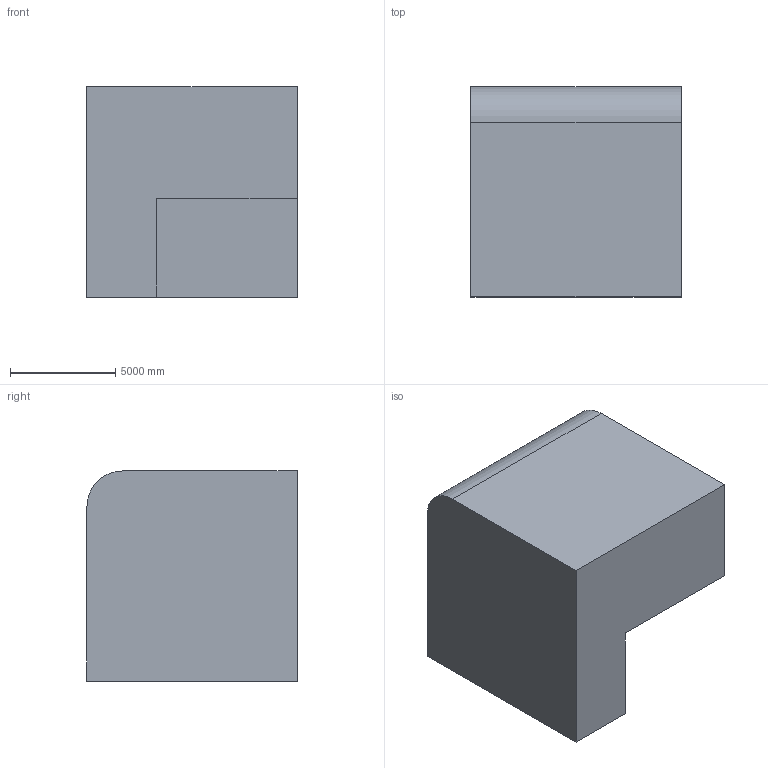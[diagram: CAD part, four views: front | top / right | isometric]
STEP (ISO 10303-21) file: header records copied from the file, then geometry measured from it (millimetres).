
FILE_DESCRIPTION (( 'STEP AP203' ), '1' );
FILE_NAME ('1058.STEP', '2022-08-18T12:35:50', ( 'user' ), ( '' ), 'SwSTEP 2.0', 'SolidWorks 2021', '' );
FILE_SCHEMA (( 'CONFIG_CONTROL_DESIGN' ));
Length unit declared in the file: centimetre
Products named in the file (1): 1058
Bounding box: 10000 x 10000 x 10000 mm (x, y, z)
Volume: 828376634831.4 mm3; surface area: 591510478.5 mm2
Topology: 1 solids, 1 shells, 10 faces, 24 edges, 16 vertices
Faces by surface type: plane 9, cylinder 1
Entity records: 367 total; most frequent: CARTESIAN_POINT 51, DIRECTION 48, ORIENTED_EDGE 48, EDGE_CURVE 24, LINE 22, VECTOR 22, VERTEX_POINT 16, AXIS2_PLACEMENT_3D 13
